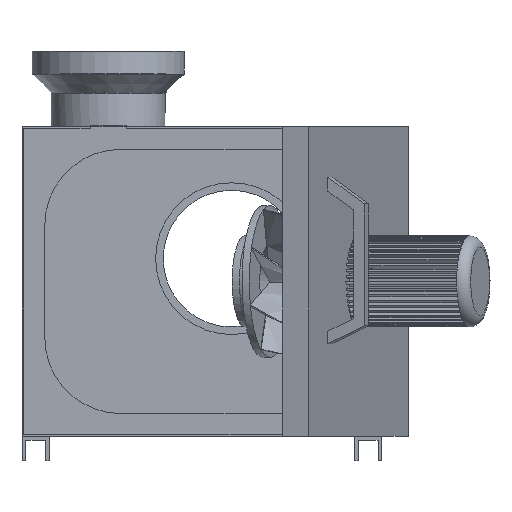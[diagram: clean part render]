
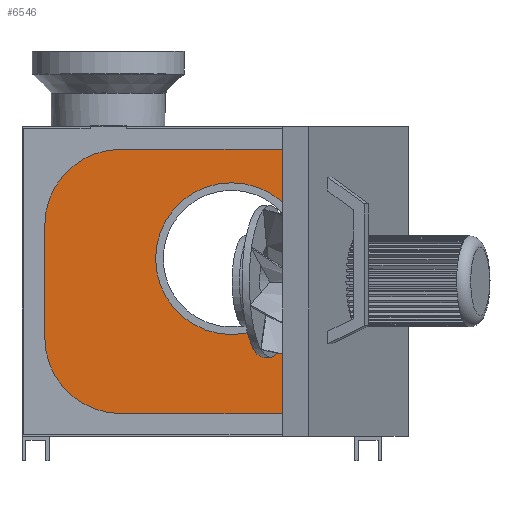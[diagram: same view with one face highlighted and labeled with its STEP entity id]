
A CAD part, left-side view. The second image highlights one B-rep face of the part: STEP entity #6546.
In plain terms, the highlighted planar face has unit normal (-1, 0, 0).
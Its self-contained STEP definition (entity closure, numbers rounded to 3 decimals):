
#89=FACE_BOUND('',#905,.T.);
#513=FACE_OUTER_BOUND('',#904,.T.);
#904=EDGE_LOOP('',(#5857,#5858,#5859,#5860));
#905=EDGE_LOOP('',(#5861));
#1605=LINE('',#11344,#2302);
#1607=LINE('',#11348,#2304);
#1609=LINE('',#11352,#2306);
#1611=LINE('',#11355,#2308);
#2302=VECTOR('',#8887,10.);
#2304=VECTOR('',#8891,10.);
#2306=VECTOR('',#8895,10.);
#2308=VECTOR('',#8899,10.);
#2517=CIRCLE('',#7091,100.);
#3077=VERTEX_POINT('',#11300);
#3092=VERTEX_POINT('',#11341);
#3093=VERTEX_POINT('',#11343);
#3094=VERTEX_POINT('',#11347);
#3095=VERTEX_POINT('',#11351);
#3997=EDGE_CURVE('',#3077,#3077,#2517,.T.);
#4017=EDGE_CURVE('',#3092,#3093,#1605,.F.);
#4019=EDGE_CURVE('',#3094,#3092,#1607,.F.);
#4021=EDGE_CURVE('',#3093,#3095,#1609,.F.);
#4023=EDGE_CURVE('',#3095,#3094,#1611,.F.);
#5857=ORIENTED_EDGE('',*,*,#4023,.F.);
#5858=ORIENTED_EDGE('',*,*,#4021,.F.);
#5859=ORIENTED_EDGE('',*,*,#4017,.F.);
#5860=ORIENTED_EDGE('',*,*,#4019,.F.);
#5861=ORIENTED_EDGE('',*,*,#3997,.T.);
#6180=PLANE('',#7107);
#6546=ADVANCED_FACE('',(#513,#89),#6180,.F.);
#7091=AXIS2_PLACEMENT_3D('',#11301,#8847,#8848);
#7107=AXIS2_PLACEMENT_3D('',#11356,#8900,#8901);
#8847=DIRECTION('center_axis',(1.,0.,0.));
#8848=DIRECTION('ref_axis',(0.,1.,0.));
#8887=DIRECTION('',(0.,1.,0.));
#8891=DIRECTION('',(0.,0.,-1.));
#8895=DIRECTION('',(0.,0.,1.));
#8899=DIRECTION('',(0.,-1.,0.));
#8900=DIRECTION('center_axis',(1.,0.,0.));
#8901=DIRECTION('ref_axis',(0.,0.,-1.));
#11300=CARTESIAN_POINT('',(-2.,-139.,30.));
#11301=CARTESIAN_POINT('Origin',(-2.,-39.,30.));
#11341=CARTESIAN_POINT('',(-2.,235.,202.));
#11343=CARTESIAN_POINT('',(-2.,-235.,202.));
#11344=CARTESIAN_POINT('',(-2.,-118.5,202.));
#11347=CARTESIAN_POINT('',(-2.,235.,-202.));
#11348=CARTESIAN_POINT('',(-2.,235.,102.));
#11351=CARTESIAN_POINT('',(-2.,-235.,-202.));
#11352=CARTESIAN_POINT('',(-2.,-235.,-102.));
#11355=CARTESIAN_POINT('',(-2.,118.5,-202.));
#11356=CARTESIAN_POINT('Origin',(-2.,0.,0.));
